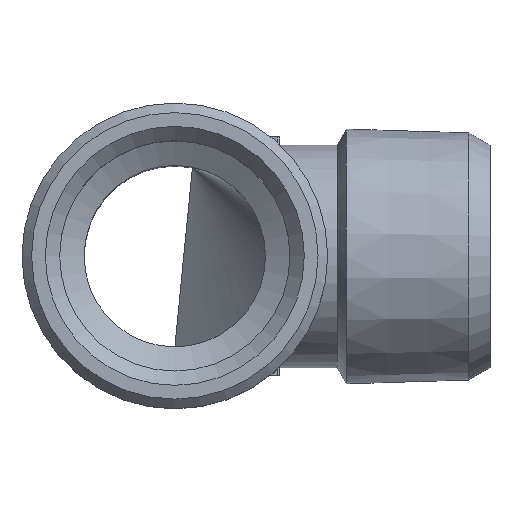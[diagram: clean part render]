
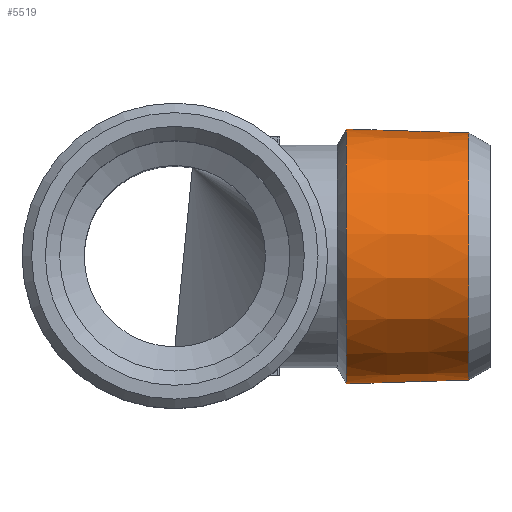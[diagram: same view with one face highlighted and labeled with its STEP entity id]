
A CAD part, top view. The second image highlights one B-rep face of the part: STEP entity #5519.
In plain terms, the highlighted conical face has half-angle 1.79 degrees and reference radius 13.377 mm.
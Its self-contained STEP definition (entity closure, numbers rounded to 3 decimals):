
#1437=CONICAL_SURFACE('',#5420,13.377,1.79);
#1499=ORIENTED_EDGE('',*,*,#1863,.F.);
#1500=ORIENTED_EDGE('',*,*,#1862,.F.);
#1708=CIRCLE('',#5419,12.936);
#1709=CIRCLE('',#5421,13.337);
#1772=VERTEX_POINT('',#4176);
#1773=VERTEX_POINT('',#4179);
#1862=EDGE_CURVE('',#1772,#1772,#1708,.T.);
#1863=EDGE_CURVE('',#1773,#1773,#1709,.T.);
#1978=EDGE_LOOP('',(#1499));
#1979=EDGE_LOOP('',(#1500));
#2056=FACE_BOUND('',#1978,.T.);
#2057=FACE_BOUND('',#1979,.T.);
#2186=DIRECTION('',(1.,0.,0.));
#2187=DIRECTION('',(0.,0.,12.936));
#2188=DIRECTION('',(-1.,0.,0.));
#2189=DIRECTION('',(0.,0.,1.));
#2190=DIRECTION('',(-1.,0.,0.));
#2191=DIRECTION('',(0.,0.,13.337));
#4176=CARTESIAN_POINT('',(50.347,45.003,12.936));
#4177=CARTESIAN_POINT('',(50.347,45.003,0.));
#4178=CARTESIAN_POINT('',(36.246,45.003,0.));
#4179=CARTESIAN_POINT('',(37.52,45.003,13.337));
#4180=CARTESIAN_POINT('',(37.52,45.003,0.));
#5419=AXIS2_PLACEMENT_3D('',#4177,#2186,#2187);
#5420=AXIS2_PLACEMENT_3D('',#4178,#2188,#2189);
#5421=AXIS2_PLACEMENT_3D('',#4180,#2190,#2191);
#5519=ADVANCED_FACE('',(#2056,#2057),#1437,.T.);
